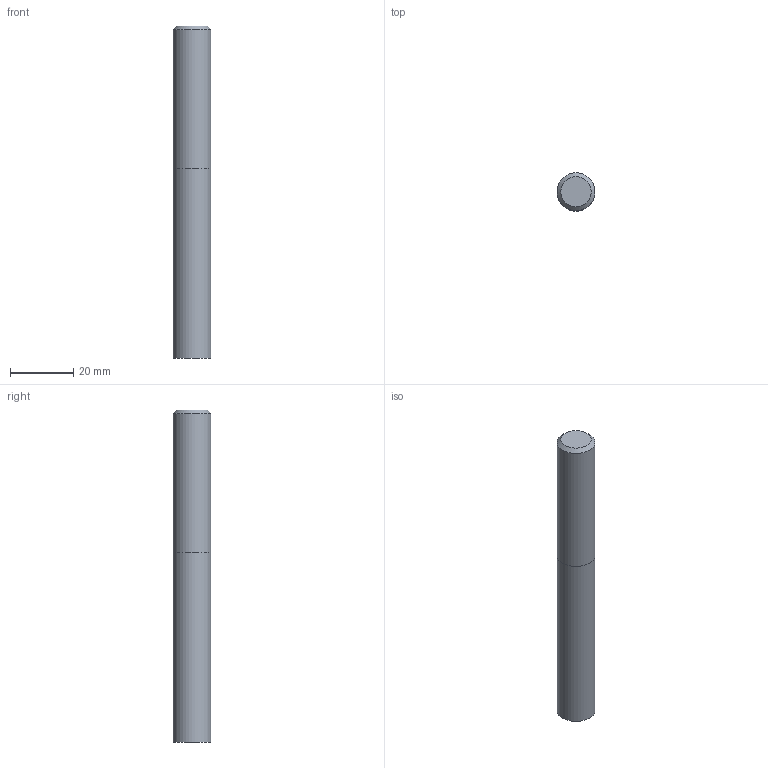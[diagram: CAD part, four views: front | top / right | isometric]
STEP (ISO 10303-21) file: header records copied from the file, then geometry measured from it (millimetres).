
FILE_DESCRIPTION((''),'2;1');
FILE_NAME('C:\Users\nsx150\AppData\Local\Temp\Mastercam 2021\E36A1X9CCL\TEMP.step','2023-04-21T15:28:23',(''),(''),'STEP Write','Mastercam 2021 ... CNC Software, Inc.','');
FILE_SCHEMA(('AUTOMOTIVE_DESIGN'));
Length unit declared in the file: millimetre
Products named in the file (1): None
Bounding box: 12 x 12 x 105 mm (x, y, z)
Volume: 11849.9 mm3; surface area: 4382.4 mm2
Topology: 2 solids, 2 shells, 7 faces, 8 edges, 5 vertices
Faces by surface type: plane 4, cylinder 2, cone 1
Full cylindrical faces by diameter (mm): 12 x2
Entity records: 169 total; most frequent: DIRECTION 28, CARTESIAN_POINT 19, AXIS2_PLACEMENT_3D 14, ORIENTED_EDGE 10, EDGE_LOOP 10, STYLED_ITEM 10, ADVANCED_FACE 7, VERTEX_POINT 5
